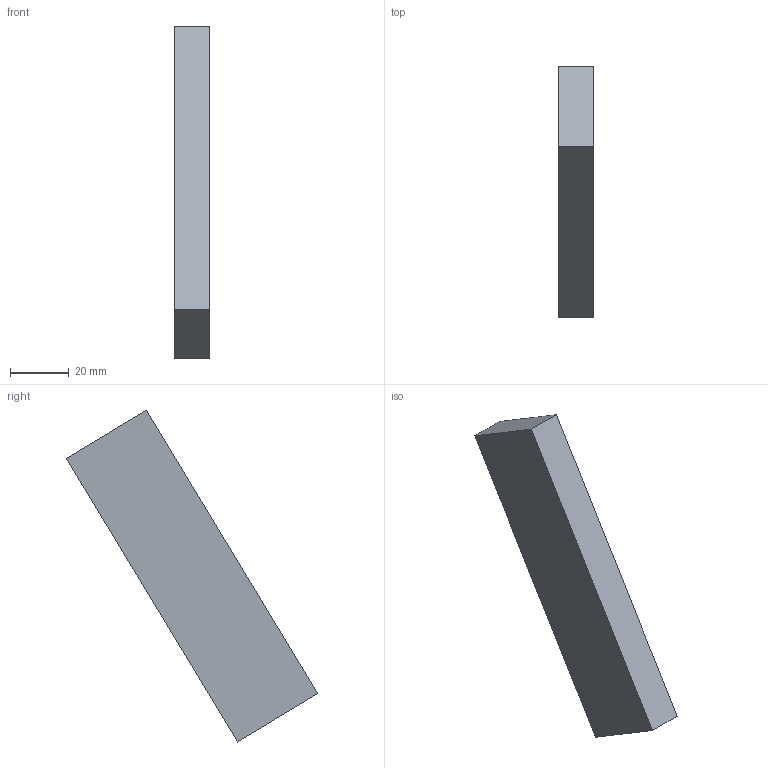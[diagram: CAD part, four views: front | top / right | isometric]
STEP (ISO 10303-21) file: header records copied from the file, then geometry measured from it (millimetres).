
FILE_DESCRIPTION(('Open CASCADE Model'),'2;1');
FILE_NAME('Open CASCADE Shape Model','2026-09-19T12:55:26',('Author'),( 'Open CASCADE'),'Open CASCADE STEP processor 7.9','Open CASCADE 7.9' ,'Unknown');
FILE_SCHEMA(('AUTOMOTIVE_DESIGN { 1 0 10303 214 1 1 1 1 }'));
Length unit declared in the file: millimetre
Products named in the file (1): Open CASCADE STEP translator 7.9 497
Bounding box: 12 x 85.8 x 113.28 mm (x, y, z)
Volume: 43392 mm3; surface area: 10712 mm2
Topology: 1 solids, 1 shells, 6 faces, 12 edges, 8 vertices
Faces by surface type: plane 6
Entity records: 322 total; most frequent: CARTESIAN_POINT 51, DIRECTION 50, LINE 36, VECTOR 36, ORIENTED_EDGE 24, PCURVE 24, DEFINITIONAL_REPRESENTATION 24, EDGE_CURVE 12
